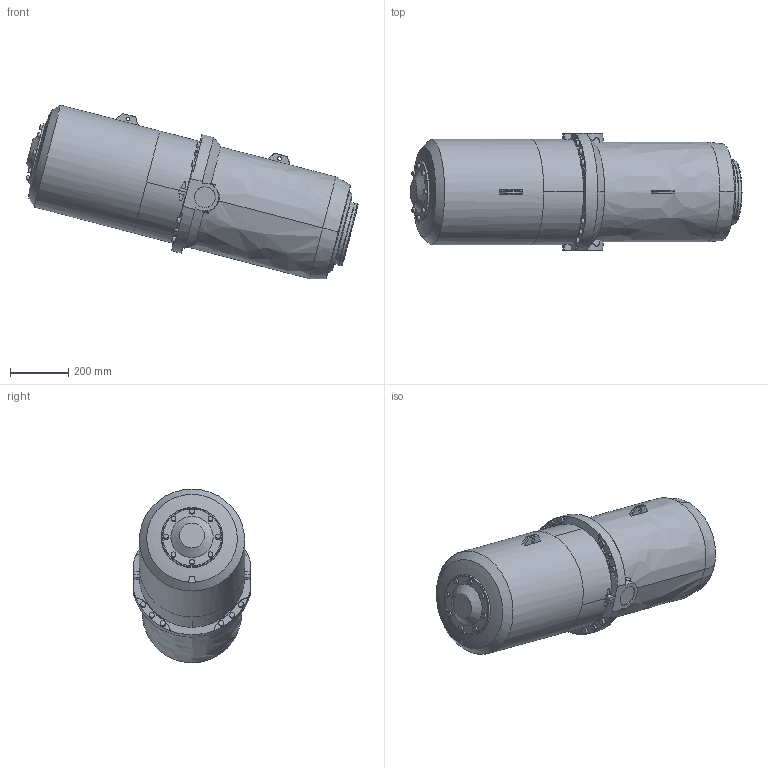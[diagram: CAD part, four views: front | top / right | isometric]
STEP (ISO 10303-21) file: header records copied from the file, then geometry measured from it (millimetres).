
FILE_DESCRIPTION (( 'STEP AP203' ), '1' );
FILE_NAME ('IRB6730S_All_OC_00_CYL_CAD.step', '2025-12-19T13:21:14', ( '' ), ( '' ), 'SwSTEP 2.0', 'SolidWorks 2024', '' );
FILE_SCHEMA (( 'CONFIG_CONTROL_DESIGN' ));
Length unit declared in the file: millimetre
Products named in the file (1): IRB6730S_All_OC_00_CYL_CAD
Bounding box: 1135.4 x 400 x 593.95 mm (x, y, z)
Volume: 106469541.1 mm3; surface area: 1645423.1 mm2
Topology: 1 solids, 1 shells, 180 faces, 504 edges, 353 vertices
Faces by surface type: plane 87, cylinder 45, cone 31, bspline 15, torus 2
Full cylindrical faces by diameter (mm): 4.2 x4, 13 x2, 16.27 x8, 18.27 x8, 50 x1, 60.1 x1, 71 x2, 200 x1, 202 x1, 218 x1, 220 x1, 360 x1
Entity records: 11237 total; most frequent: CARTESIAN_POINT 7282, ORIENTED_EDGE 804, DIRECTION 677, EDGE_CURVE 402, VERTEX_POINT 307, AXIS2_PLACEMENT_3D 287, EDGE_LOOP 275, FACE_OUTER_BOUND 213
